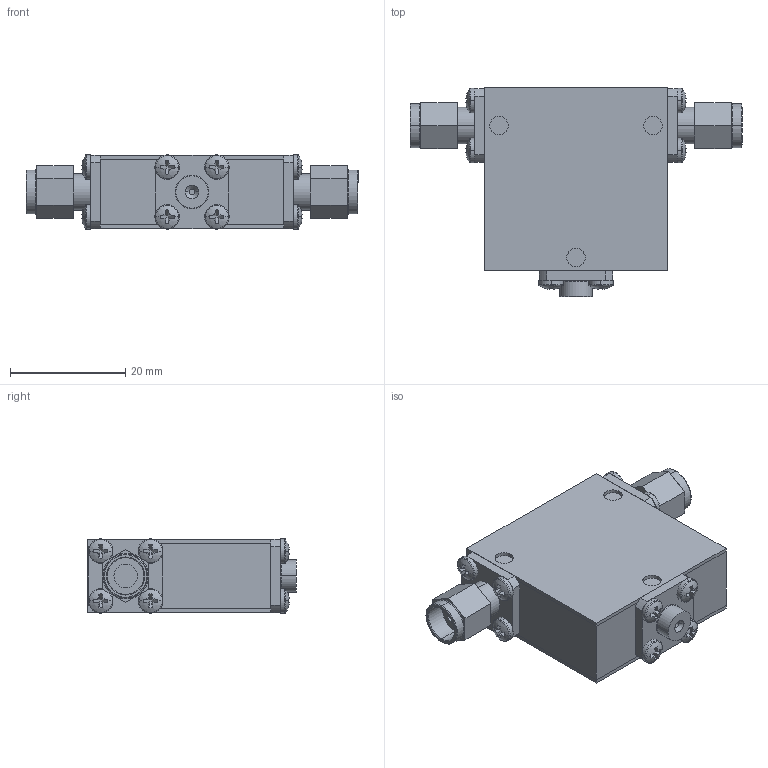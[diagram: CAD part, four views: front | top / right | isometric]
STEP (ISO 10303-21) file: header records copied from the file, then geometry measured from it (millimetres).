
FILE_DESCRIPTION (( 'STEP AP214' ), '1' );
FILE_NAME ('D3I3090-3 1.25x1.25x0.5 MM.step', '2021-12-01T20:56:15', ( '' ), ( '' ), 'SwSTEP 2.0', 'SolidWorks 2016', '' );
FILE_SCHEMA (( 'AUTOMOTIVE_DESIGN' ));
Length unit declared in the file: inch
Products named in the file (6): D3I3090 1.25x1.25x0.5; D3I3090-3 1.25x1.25x0.5 MM; Delta SMA-Male; D3I3090 1.25x1.225x0.45; 030013-1A Same Base thickness as connectors; pan cross head_ai_CR-PHMS 0.086-56x0.125x0.125-N
Assembly tree (17 placements, depth 2):
  D3I3090-3 1.25x1.25x0.5 MM
    D3I3090 1.25x1.225x0.45
    D3I3090 1.25x1.25x0.5
    030013-1A Same Base thickness as connectors
    pan cross head_ai_CR-PHMS 0.086-56x0.125x0.125-N  x12
    Delta SMA-Male  x2
Bounding box: 57.51 x 36.2 x 12.88 mm (x, y, z)
Volume: 14417 mm3; surface area: 11334.4 mm2
Topology: 17 solids, 17 shells, 430 faces, 980 edges, 604 vertices
Faces by surface type: plane 246, cylinder 118, torus 38, sphere 24, cone 4
Entity records: 4284 total; most frequent: DIRECTION 774, CARTESIAN_POINT 668, ORIENTED_EDGE 632, EDGE_CURVE 316, AXIS2_PLACEMENT_3D 308, VERTEX_POINT 202, EDGE_LOOP 168, CIRCLE 158
